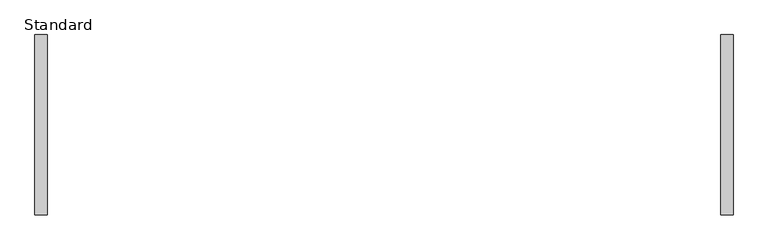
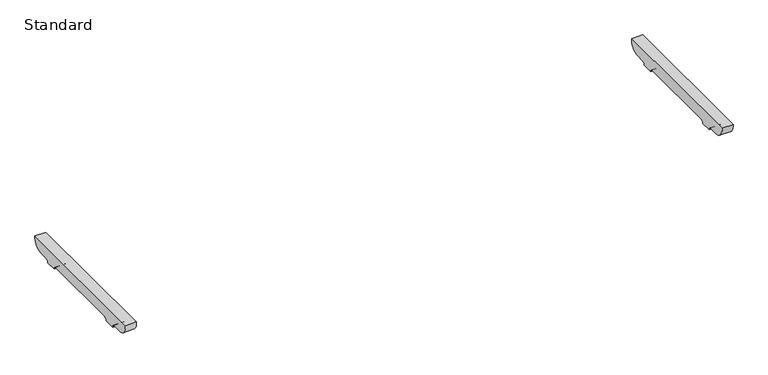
"""IFC4 building model written with IfcOpenShell, lengths in millimetres: furniture geometry, BDG_BossDesign_Tbls_AgentTables4Legs_Nested : Standard."""

from ifc_helpers import new_model, si_unit, point, frame, frame_2d, origin, place, context, project, spatial, polyline, circle_curve, trimmed, segment, composite_curve, outline, extrude, source, transform, mapped, element, save


def standard_5d47b802(model_context):
    return source(origin(), model_context, "Body", "SweptSolid", [
        extrude(outline(composite_curve([segment(polyline([(280.5450184, 672.0), (242.7000122, 672.0)]), True, "CONTINUOUS"), segment(trimmed(circle_curve(frame_2d((242.7000122, 660.0)), 12.0), [point((242.7000122, 672.0))], [point((230.7000122, 660.0))], True, "CARTESIAN"), True, "CONTINUOUS"), segment(polyline([(230.7000122, 660.0), (185.7000122, 660.0)]), True, "CONTINUOUS"), segment(trimmed(circle_curve(frame_2d((173.7000122, 660.0)), 12.0), [point((185.7000122, 660.0))], [point((173.7000122, 672.0))], True, "CARTESIAN"), True, "CONTINUOUS"), segment(polyline([(173.7000122, 672.0), (-173.7000122, 672.0)]), True, "CONTINUOUS"), segment(trimmed(circle_curve(frame_2d((-173.7000122, 660.0)), 12.0), [point((-173.7000122, 672.0))], [point((-185.7000122, 660.0))], True, "CARTESIAN"), True, "CONTINUOUS"), segment(polyline([(-185.7000122, 660.0), (-230.7000122, 660.0)]), True, "CONTINUOUS"), segment(trimmed(circle_curve(frame_2d((-242.7000122, 660.0)), 12.0), [point((-230.7000122, 660.0))], [point((-242.7000122, 672.0))], True, "CARTESIAN"), True, "CONTINUOUS"), segment(polyline([(-242.7000122, 672.0), (-280.5450184, 672.0)]), True, "CONTINUOUS"), segment(trimmed(circle_curve(frame_2d((-278.2220439, 716.5514119)), 44.6119324), [point((-280.5450184, 672.0))], [point((-322.5, 722.0))], False, "CARTESIAN"), True, "CONTINUOUS"), segment(polyline([(-322.5, 722.0), (322.5, 722.0)]), True, "CONTINUOUS"), segment(trimmed(circle_curve(frame_2d((278.2220439, 716.5514119)), 44.6119324), [point((322.5, 722.0))], [point((280.5450184, 672.0))], False, "CARTESIAN"), True, "CONTINUOUS")], self_intersect=False)), frame((1205.0, 0.0, 0.0), z_axis=(1.0, 0.0, 0.0), x_axis=(0.0, 1.0, 0.0)), (0.0, 0.0, 1.0), 45.0),
        extrude(outline(composite_curve([segment(polyline([(280.5450184, 672.0), (242.7000122, 672.0)]), True, "CONTINUOUS"), segment(trimmed(circle_curve(frame_2d((242.7000122, 660.0)), 12.0), [point((242.7000122, 672.0))], [point((230.7000122, 660.0))], True, "CARTESIAN"), True, "CONTINUOUS"), segment(polyline([(230.7000122, 660.0), (185.7000122, 660.0)]), True, "CONTINUOUS"), segment(trimmed(circle_curve(frame_2d((173.7000122, 660.0)), 12.0), [point((185.7000122, 660.0))], [point((173.7000122, 672.0))], True, "CARTESIAN"), True, "CONTINUOUS"), segment(polyline([(173.7000122, 672.0), (-173.7000122, 672.0)]), True, "CONTINUOUS"), segment(trimmed(circle_curve(frame_2d((-173.7000122, 660.0)), 12.0), [point((-173.7000122, 672.0))], [point((-185.7000122, 660.0))], True, "CARTESIAN"), True, "CONTINUOUS"), segment(polyline([(-185.7000122, 660.0), (-230.7000122, 660.0)]), True, "CONTINUOUS"), segment(trimmed(circle_curve(frame_2d((-242.7000122, 660.0)), 12.0), [point((-230.7000122, 660.0))], [point((-242.7000122, 672.0))], True, "CARTESIAN"), True, "CONTINUOUS"), segment(polyline([(-242.7000122, 672.0), (-280.5450184, 672.0)]), True, "CONTINUOUS"), segment(trimmed(circle_curve(frame_2d((-278.2220439, 716.5514119)), 44.6119324), [point((-280.5450184, 672.0))], [point((-322.5, 722.0))], False, "CARTESIAN"), True, "CONTINUOUS"), segment(polyline([(-322.5, 722.0), (322.5, 722.0)]), True, "CONTINUOUS"), segment(trimmed(circle_curve(frame_2d((278.2220439, 716.5514119)), 44.6119324), [point((322.5, 722.0))], [point((280.5450184, 672.0))], False, "CARTESIAN"), True, "CONTINUOUS")], self_intersect=False)), frame((-1250.0, 0.0, 0.0), z_axis=(1.0, 0.0, 0.0), x_axis=(0.0, 1.0, 0.0)), (0.0, 0.0, 1.0), 45.0),
    ])


if __name__ == "__main__":
    model = new_model("IFC4")
    model_context = context("Model", 3, world=origin())
    ifc_project = project(units=[si_unit("LENGTHUNIT", "METRE", prefix="MILLI")], contexts=[model_context])
    site = spatial("IfcSite", under=ifc_project)
    building = spatial("IfcBuilding", under=site)
    placement = place(None, origin())
    standard_shape = standard_5d47b802(model_context)
    element("IfcFurniture", 1, ObjectType="BDG_BossDesign_Tbls_AgentTables4Legs_Nested : Standard", at=placement, inside=building, context=model_context, shape_type="MappedRepresentation", body=[
        mapped(standard_shape, transform((0.0, 0.0, 0.0), x_axis=(1.0, 0.0, 0.0), y_axis=(0.0, 1.0, 0.0), z_axis=(0.0, 0.0, 1.0))),
    ])
    save(model, "model.ifc")
